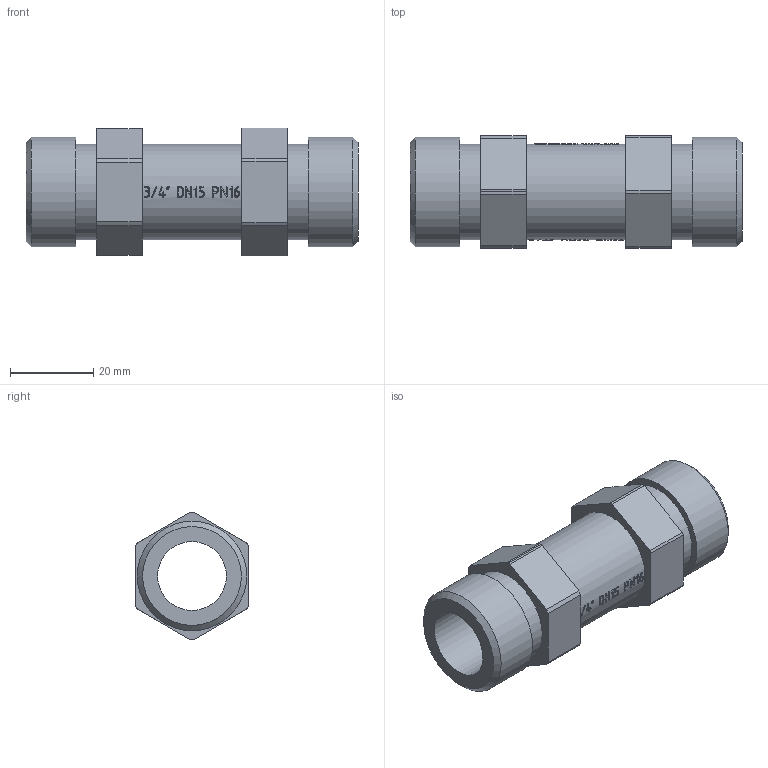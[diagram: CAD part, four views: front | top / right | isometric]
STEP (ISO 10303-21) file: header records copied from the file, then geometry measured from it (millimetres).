
FILE_DESCRIPTION(('TFLEX Exchange Step'),'2;1');
FILE_NAME('Repair insert VTp.789.080.04.stp', '2023-08-31T17:07:50+03:00',('denis'),('Unknown organisation'),'TFLEX Exchange 2023.0','T-FLEX CAD','Unknown authorisation');
FILE_SCHEMA( ('AUTOMOTIVE_DESIGN { 1 0 10303 214 1 1 1 1 }') );
Length unit declared in the file: millimetre
Products named in the file (1): Nodes
Bounding box: 80 x 27 x 30.8 mm (x, y, z)
Volume: 23693.2 mm3; surface area: 12343.9 mm2
Topology: 1 solids, 1 shells, 387 faces, 1062 edges, 709 vertices
Faces by surface type: bspline 177, plane 137, cylinder 71, cone 2
Full cylindrical faces by diameter (mm): 16.6 x1, 23 x3, 26.4 x2
Entity records: 15605 total; most frequent: CARTESIAN_POINT 7378, ORIENTED_EDGE 2124, EDGE_CURVE 1062, DIRECTION 974, VERTEX_POINT 709, B_SPLINE_CURVE_WITH_KNOTS 621, EDGE_LOOP 421, FACE_BOUND 421
